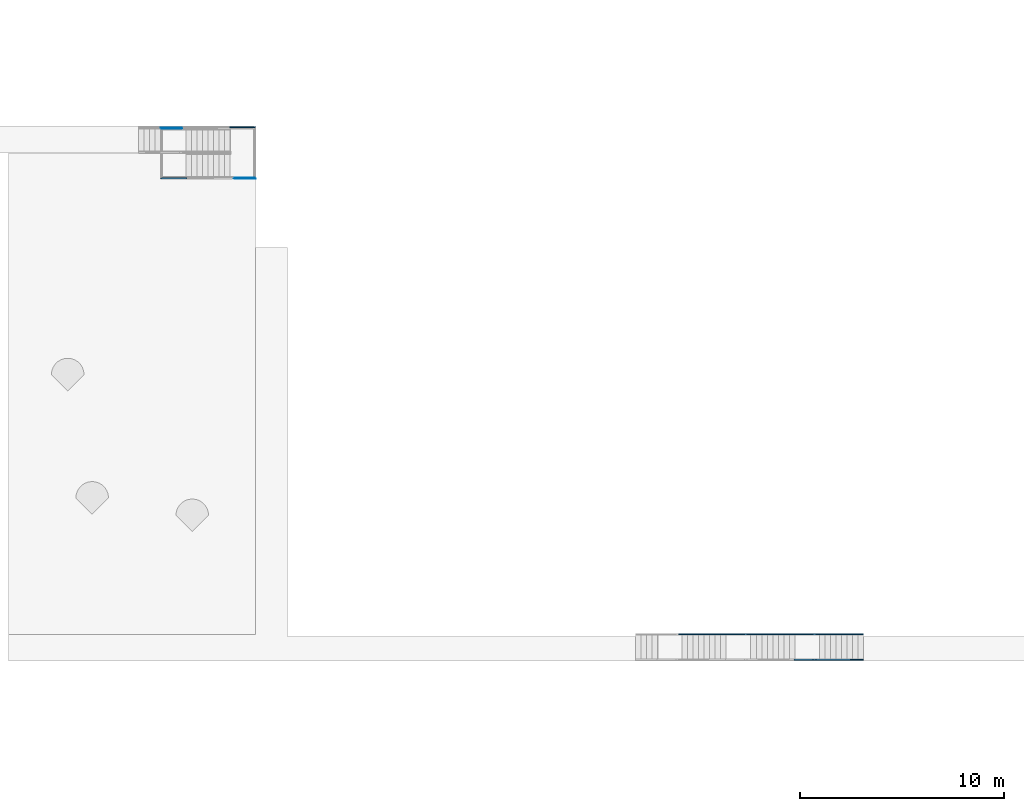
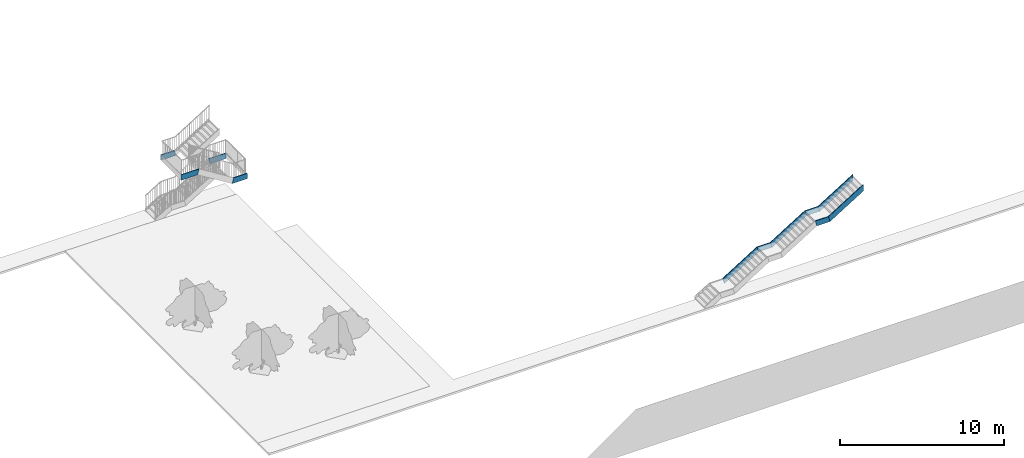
# One storey, part 2 of 16: 11 members, 2 elements without a shape of their own.
"""IFC2X3 building model written with IfcOpenShell, lengths in millimetres."""

from ifc_helpers import new_model, entity, si_unit, converted_unit, derived_unit, direction, frame, origin, place, context, subcontext, project, spatial, polyline, outline, extrude, faceted_brep, type_object, element, aggregate, save


model = new_model("IFC2X3")

# Units and contexts
model_context = context("Model", 3, precision=0.01, world=origin(), true_north=direction((4.05803320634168e-15, -1.0)))
body_context = subcontext(model_context, "Body", "Model", "MODEL_VIEW")
ifc_project = project(units=[si_unit("LENGTHUNIT", "METRE", prefix="MILLI"), si_unit("AREAUNIT", "SQUARE_METRE"), si_unit("VOLUMEUNIT", "CUBIC_METRE"), converted_unit("PLANEANGLEUNIT", "DEGREE", entity("IfcRatioMeasure", 0.0174532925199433), si_unit("PLANEANGLEUNIT", "RADIAN"), dimensions=[0, 0, 0, 0, 0, 0, 0]), si_unit("MASSUNIT", "GRAM", prefix="KILO"), derived_unit("MASSDENSITYUNIT", [(si_unit("MASSUNIT", "GRAM", prefix="KILO"), 1), (si_unit("LENGTHUNIT", "METRE"), -3)]), si_unit("TIMEUNIT", "SECOND"), si_unit("FREQUENCYUNIT", "HERTZ"), si_unit("THERMODYNAMICTEMPERATUREUNIT", "DEGREE_CELSIUS"), derived_unit("THERMALTRANSMITTANCEUNIT", [(si_unit("MASSUNIT", "GRAM", prefix="KILO"), 1), (si_unit("THERMODYNAMICTEMPERATUREUNIT", "KELVIN"), -1), (si_unit("TIMEUNIT", "SECOND"), -3)]), derived_unit("VOLUMETRICFLOWRATEUNIT", [(si_unit("LENGTHUNIT", "METRE"), 3), (si_unit("TIMEUNIT", "SECOND"), -1)]), si_unit("ELECTRICCURRENTUNIT", "AMPERE"), si_unit("ELECTRICVOLTAGEUNIT", "VOLT"), si_unit("POWERUNIT", "WATT"), si_unit("FORCEUNIT", "NEWTON", prefix="KILO"), si_unit("ILLUMINANCEUNIT", "LUX"), si_unit("LUMINOUSFLUXUNIT", "LUMEN"), si_unit("LUMINOUSINTENSITYUNIT", "CANDELA"), derived_unit("USERDEFINED", [(si_unit("MASSUNIT", "GRAM", prefix="KILO"), -1), (si_unit("LENGTHUNIT", "METRE"), -2), (si_unit("TIMEUNIT", "SECOND"), 3), (si_unit("LUMINOUSFLUXUNIT", "LUMEN"), 1)]), derived_unit("LINEARVELOCITYUNIT", [(si_unit("LENGTHUNIT", "METRE"), 1), (si_unit("TIMEUNIT", "SECOND"), -1)]), si_unit("PRESSUREUNIT", "PASCAL"), derived_unit("USERDEFINED", [(si_unit("LENGTHUNIT", "METRE"), -2), (si_unit("MASSUNIT", "GRAM", prefix="KILO"), 1), (si_unit("TIMEUNIT", "SECOND"), -2)])], contexts=[model_context])

# Site, building, storey
site_placement = place(None, frame((927466.849349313, 583801.882853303, 0.0), z_axis=(0.0, 0.0, 1.0), x_axis=(-1.0, 0.0, 0.0)))
site = spatial("IfcSite", under=ifc_project, at=site_placement, Name="Surface", CompositionType="ELEMENT")
building_placement = place(site_placement, origin())
building = spatial("IfcBuilding", under=site, at=building_placement, CompositionType="ELEMENT")
storey_placement = place(building_placement, frame((0.0, 0.0, 42810.0)))
storey = spatial("IfcBuildingStorey", under=building, at=storey_placement, Name="Hardstand", CompositionType="ELEMENT", Elevation=42810.0)

# Stair, members
stair_1_placement = place(storey_placement, origin())
stair_1 = element("IfcStair", 1, at=stair_1_placement, inside=storey, Name="Assembled Stair:Stair", ObjectType="Assembled Stair:170mm max riser 270mm going", ShapeType="NOTDEFINED")
member_type = type_object("IfcMemberType", Name="Stringer:Stringer - 50mm Width", PredefinedType="STRINGER")
member_1_placement = place(stair_1_placement, origin())
member_1 = element("IfcMember", 2, at=member_1_placement, type_object=member_type, Name="Assembled Stair:Stair:622611 Stringer 1", ObjectType="Assembled Stair:170mm max riser 270mm going", context=body_context, shape_type="SweptSolid", body=[
    extrude(outline(polyline([(-1471.24226843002, -200.0), (1290.16982699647, -200.0), (1538.31797514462, 200.0), (-1357.24553371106, 200.0), (-1471.24226843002, -200.0)])), frame((-107776.101626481, 36928.2777512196, 4448.04269746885), z_axis=(0.0, 1.0, 0.0), x_axis=(-0.849761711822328, 0.0, 0.527166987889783)), (0.0, 0.0, 1.0), 50.0000000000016),
])
member_2_placement = place(stair_1_placement, origin())
member_2 = element("IfcMember", 3, at=member_2_placement, type_object=member_type, Name="Assembled Stair:Stair:622611 Stringer 2", ObjectType="Assembled Stair:170mm max riser 270mm going", context=body_context, shape_type="SweptSolid", body=[
    extrude(outline(polyline([(-1471.24226843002, -200.0), (1290.16982699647, -200.0), (1538.31797514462, 200.0), (-1357.24553371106, 200.0), (-1471.24226843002, -200.0)])), frame((-107776.101626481, 38178.2777512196, 4448.04269746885), z_axis=(0.0, 1.0, 0.0), x_axis=(-0.849761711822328, 0.0, 0.527166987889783)), (0.0, 0.0, 1.0), 50.0000000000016),
])
member_3_placement = place(stair_1_placement, origin())
member_3 = element("IfcMember", 4, at=member_3_placement, type_object=member_type, Name="Assembled Stair:Stair:622611 Stringer 3", ObjectType="Assembled Stair:170mm max riser 270mm going", context=body_context, shape_type="SweptSolid", body=[
    extrude(outline(polyline([(-1486.81096434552, -200.0), (1372.81422962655, -200.0), (1486.81096434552, 200.0), (-1372.81422962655, 200.0), (-1486.81096434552, -200.0)])), frame((-104429.331308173, 36928.2777512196, 2948.75), z_axis=(0.0, 1.0, 0.0), x_axis=(-0.849761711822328, 0.0, 0.527166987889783)), (0.0, 0.0, 1.0), 50.0000000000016),
])
member_4_placement = place(stair_1_placement, origin())
member_4 = element("IfcMember", 5, at=member_4_placement, type_object=member_type, Name="Assembled Stair:Stair:622611 Stringer 5", ObjectType="Assembled Stair:170mm max riser 270mm going", context=body_context, shape_type="SweptSolid", body=[
    extrude(outline(polyline([(-408.001632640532, -200.0), (521.998367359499, -200.0), (408.001632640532, 200.0), (-521.998367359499, 200.0), (-408.001632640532, -200.0)])), frame((-106109.331308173, 36928.2777512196, 3702.5), z_axis=(0.0, 1.0, 0.0), x_axis=(1.0, 0.0, 0.0)), (0.0, 0.0, 1.0), 50.0000000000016),
])
member_5_placement = place(stair_1_placement, origin())
member_5 = element("IfcMember", 6, at=member_5_placement, type_object=member_type, Name="Assembled Stair:Stair:622611 Stringer 6", ObjectType="Assembled Stair:170mm max riser 270mm going", context=body_context, shape_type="SweptSolid", body=[
    extrude(outline(polyline([(-408.001632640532, -200.0), (521.998367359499, -200.0), (408.001632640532, 200.0), (-521.998367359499, 200.0), (-408.001632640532, -200.0)])), frame((-106109.331308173, 38178.2777512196, 3702.5), z_axis=(0.0, 1.0, 0.0), x_axis=(-1.0, 0.0, 0.0)), (0.0, 0.0, 1.0), 50.0000000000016),
])
member_6_placement = place(stair_1_placement, origin())
member_6 = element("IfcMember", 7, at=member_6_placement, type_object=member_type, Name="Assembled Stair:Stair:622611 Stringer 7", ObjectType="Assembled Stair:170mm max riser 270mm going", context=body_context, shape_type="SweptSolid", body=[
    extrude(outline(polyline([(-1486.81096434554, -200.0), (1372.81422962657, -200.0), (1486.81096434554, 200.0), (-1372.81422962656, 200.0), (-1486.81096434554, -200.0)])), frame((-101069.331308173, 36928.2777512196, 1441.25), z_axis=(0.0, 1.0, 0.0), x_axis=(-0.849761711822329, 0.0, 0.527166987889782)), (0.0, 0.0, 1.0), 50.0000000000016),
])
member_7_placement = place(stair_1_placement, origin())
member_7 = element("IfcMember", 8, at=member_7_placement, type_object=member_type, Name="Assembled Stair:Stair:622611 Stringer 9", ObjectType="Assembled Stair:170mm max riser 270mm going", context=body_context, shape_type="SweptSolid", body=[
    extrude(outline(polyline([(-408.001632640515, -200.0), (521.998367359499, -200.0), (408.001632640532, 200.0), (-521.998367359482, 200.0), (-408.001632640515, -200.0)])), frame((-102749.331308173, 36928.2777512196, 2195.0), z_axis=(0.0, 1.0, 0.0), x_axis=(1.0, 0.0, 0.0)), (0.0, 0.0, 1.0), 50.0000000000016),
])
aggregate(stair_1, [member_1, member_2, member_3, member_4, member_5, member_6, member_7])

stair_2_placement = place(storey_placement, origin())
stair_2 = element("IfcStair", 9, at=stair_2_placement, inside=storey, Name="Assembled Stair:Stair", ObjectType="Assembled Stair:170mm max riser 270mm going", ShapeType="NOTDEFINED")
member_8_placement = place(stair_2_placement, frame((-75612.0490345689, 12142.1710387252, 3502.50000000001)))
member_8 = element("IfcMember", 10, at=member_8_placement, type_object=member_type, Name="Assembled Stair:Stair:767068 Stringer 5", ObjectType="Assembled Stair:170mm max riser 270mm going", context=body_context, shape_type="Brep", body=[
    faceted_brep([(113.996734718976, 50.0, 400.0), (113.996734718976, 0.0, 400.0), (1063.45773074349, 0.0, 400.0), (1013.45773074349, 50.0, 400.0), (0.0, 50.0, 0.0), (1013.45773074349, 50.0, 0.0), (0.0, 0.0, 0.0), (1063.45773074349, 0.0, 0.0)], [[[0, 1, 2, 3]], [[4, 0, 3, 5]], [[6, 4, 5, 7]], [[1, 6, 7, 2]], [[1, 0, 4, 6]], [[2, 7, 5, 3]]]),
])
member_9_placement = place(stair_2_placement, frame((-75829.1303078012, 14592.1710387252, 3502.50000000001)))
member_9 = element("IfcMember", 11, at=member_9_placement, type_object=member_type, Name="Assembled Stair:Stair:767068 Stringer 7", ObjectType="Assembled Stair:170mm max riser 270mm going", context=body_context, shape_type="Brep", body=[
    faceted_brep([(1230.53900397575, 0.0, 400.0), (1280.53900397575, 50.0, 400.0), (0.0, 50.0, 400.0), (0.0, 0.0, 400.0), (1230.53900397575, 0.0, 0.0), (113.996734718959, 0.0, 0.0), (1280.53900397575, 50.0, 0.0), (113.996734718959, 50.0, 0.0)], [[[0, 1, 2, 3]], [[4, 0, 3, 5]], [[6, 4, 5, 7]], [[1, 6, 7, 2]], [[1, 0, 4, 6]], [[2, 7, 5, 3]]]),
])
member_10_placement = place(stair_2_placement, frame((-79208.5913038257, 14592.1710387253, 1995.0)))
member_10 = element("IfcMember", 12, at=member_10_placement, type_object=member_type, Name="Assembled Stair:Stair:767068 Stringer 10", ObjectType="Assembled Stair:170mm max riser 270mm going", context=body_context, shape_type="Brep", body=[
    faceted_brep([(949.460996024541, 0.0, 400.0), (949.460996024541, 50.0, 400.0), (0.0, 50.0, 400.0), (50.0, 0.0, 400.0), (1063.45773074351, 0.0, 0.0), (50.0, 0.0, 0.0), (1063.45773074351, 50.0, 0.0), (0.0, 50.0, 0.0)], [[[0, 1, 2, 3]], [[4, 0, 3, 5]], [[6, 4, 5, 7]], [[1, 6, 7, 2]], [[1, 0, 4, 6]], [[2, 7, 5, 3]]]),
])
member_11_placement = place(stair_2_placement, frame((-79208.5913038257, 12092.1710387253, 1995.0)))
member_11 = element("IfcMember", 13, at=member_11_placement, type_object=member_type, Name="Assembled Stair:Stair:767068 Stringer 12", ObjectType="Assembled Stair:170mm max riser 270mm going", context=body_context, shape_type="Brep", body=[
    faceted_brep([(50.0, 50.0, 400.0), (0.0, 0.0, 400.0), (1280.53900397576, 0.0, 400.0), (1280.53900397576, 50.0, 400.0), (50.0, 50.0, 0.0), (1166.54226925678, 50.0, 0.0), (0.0, 0.0, 0.0), (1166.54226925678, 0.0, 0.0)], [[[0, 1, 2, 3]], [[4, 0, 3, 5]], [[6, 4, 5, 7]], [[1, 6, 7, 2]], [[1, 0, 4, 6]], [[2, 7, 5, 3]]]),
])
aggregate(stair_2, [member_8, member_9, member_10, member_11])

save(model, "model.ifc")
